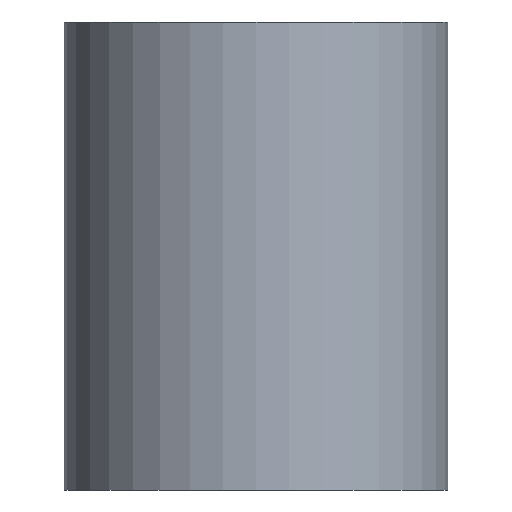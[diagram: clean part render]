
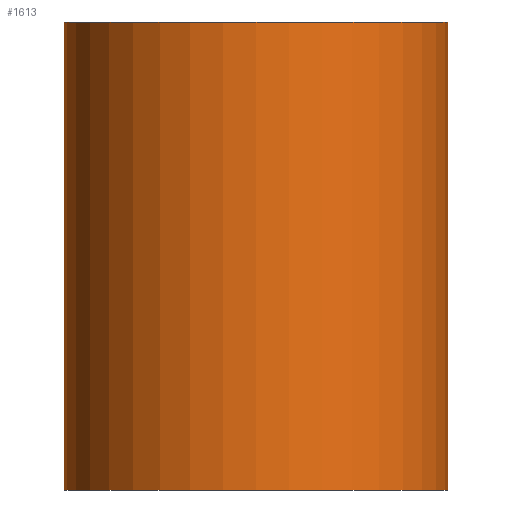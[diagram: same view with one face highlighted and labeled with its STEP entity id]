
A CAD part, front view. The second image highlights one B-rep face of the part: STEP entity #1613.
In plain terms, the highlighted cylindrical face has radius 25.4 mm (diameter 50.8 mm), a partial arc.
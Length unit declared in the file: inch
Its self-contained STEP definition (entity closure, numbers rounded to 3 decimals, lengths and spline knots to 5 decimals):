
#16 = DIRECTION ( 'NONE',  ( 0., 0., -1. ) ) ;
#44 = CARTESIAN_POINT ( 'NONE',  ( 1., 0., 1.219 ) ) ;
#110 = VERTEX_POINT ( 'NONE', #430 ) ;
#115 = ORIENTED_EDGE ( 'NONE', *, *, #1092, .T. ) ;
#228 = EDGE_CURVE ( 'NONE', #928, #960, #1498, .T. ) ;
#231 = CARTESIAN_POINT ( 'NONE',  ( 0., 0., 1.219 ) ) ;
#270 = ORIENTED_EDGE ( 'NONE', *, *, #228, .F. ) ;
#403 = CARTESIAN_POINT ( 'NONE',  ( -1., 0., -1.219 ) ) ;
#430 = CARTESIAN_POINT ( 'NONE',  ( 1., 0., -1.219 ) ) ;
#518 = ORIENTED_EDGE ( 'NONE', *, *, #831, .F. ) ;
#607 = VERTEX_POINT ( 'NONE', #403 ) ;
#641 = AXIS2_PLACEMENT_3D ( 'NONE', #231, #1536, #785 ) ;
#785 = DIRECTION ( 'NONE',  ( 1., 0., 0. ) ) ;
#789 = CARTESIAN_POINT ( 'NONE',  ( 1., 0., 1.219 ) ) ;
#818 = AXIS2_PLACEMENT_3D ( 'NONE', #1462, #16, #1598 ) ;
#831 = EDGE_CURVE ( 'NONE', #960, #110, #1276, .T. ) ;
#867 = CYLINDRICAL_SURFACE ( 'NONE', #818, 1. ) ;
#928 = VERTEX_POINT ( 'NONE', #1686 ) ;
#960 = VERTEX_POINT ( 'NONE', #789 ) ;
#980 = DIRECTION ( 'NONE',  ( 1., 0., 0. ) ) ;
#1007 = VECTOR ( 'NONE', #1893, 39.37008 ) ;
#1072 = DIRECTION ( 'NONE',  ( 0., 0., -1. ) ) ;
#1092 = EDGE_CURVE ( 'NONE', #607, #110, #1111, .T. ) ;
#1111 = CIRCLE ( 'NONE', #1241, 1. ) ;
#1125 = FACE_OUTER_BOUND ( 'NONE', #1236, .T. ) ;
#1155 = EDGE_CURVE ( 'NONE', #928, #607, #1414, .T. ) ;
#1236 = EDGE_LOOP ( 'NONE', ( #518, #270, #1697, #115 ) ) ;
#1241 = AXIS2_PLACEMENT_3D ( 'NONE', #1573, #1878, #980 ) ;
#1276 = LINE ( 'NONE', #44, #1625 ) ;
#1414 = LINE ( 'NONE', #1463, #1007 ) ;
#1462 = CARTESIAN_POINT ( 'NONE',  ( 0., 0., 1.219 ) ) ;
#1463 = CARTESIAN_POINT ( 'NONE',  ( -1., 0., 1.219 ) ) ;
#1498 = CIRCLE ( 'NONE', #641, 1. ) ;
#1536 = DIRECTION ( 'NONE',  ( 0., 0., 1. ) ) ;
#1573 = CARTESIAN_POINT ( 'NONE',  ( 0., 0., -1.219 ) ) ;
#1598 = DIRECTION ( 'NONE',  ( -1., 0., 0. ) ) ;
#1613 = ADVANCED_FACE ( 'NONE', ( #1125 ), #867, .T. ) ;
#1625 = VECTOR ( 'NONE', #1072, 39.37008 ) ;
#1686 = CARTESIAN_POINT ( 'NONE',  ( -1., 0., 1.219 ) ) ;
#1697 = ORIENTED_EDGE ( 'NONE', *, *, #1155, .T. ) ;
#1878 = DIRECTION ( 'NONE',  ( 0., 0., 1. ) ) ;
#1893 = DIRECTION ( 'NONE',  ( 0., 0., -1. ) ) ;
